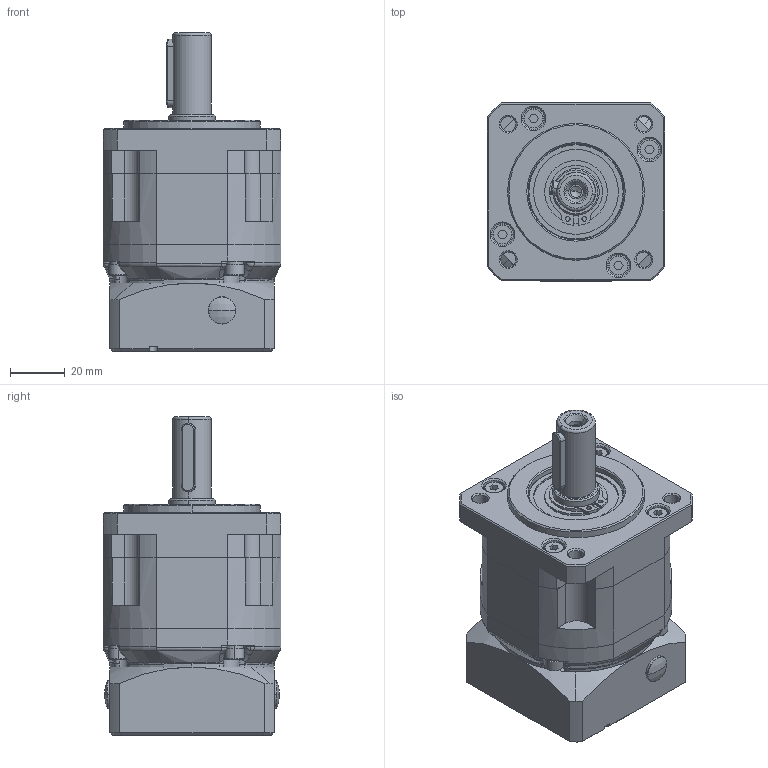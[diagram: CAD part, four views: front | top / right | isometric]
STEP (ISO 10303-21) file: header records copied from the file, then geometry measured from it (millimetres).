
FILE_DESCRIPTION (( 'STEP AP203' ), '1' );
FILE_NAME ('PS70L1-i-P2-S2-14-30-50-70-M5.step', '2020-03-30T09:38:31', ( '个人用户' ), ( '微软中国' ), 'SwSTEP 2.0', 'SolidWorks 2018', '' );
FILE_SCHEMA (( 'CONFIG_CONTROL_DESIGN' ));
Length unit declared in the file: millimetre
Products named in the file (1): PS70L1-i-P2-S2-14-30-50-70-M5
Bounding box: 65 x 65 x 116.5 mm (x, y, z)
Volume: 224872.7 mm3; surface area: 93407.8 mm2
Topology: 39 solids, 39 shells, 1441 faces, 3555 edges, 2241 vertices
Faces by surface type: cylinder 467, plane 406, sphere 190, cone 170, torus 170, bspline 38
Entity records: 49551 total; most frequent: CARTESIAN_POINT 15139, DIRECTION 7506, ORIENTED_EDGE 7010, EDGE_CURVE 3505, AXIS2_PLACEMENT_3D 3165, VERTEX_POINT 2237, CIRCLE 1761, EDGE_LOOP 1652
